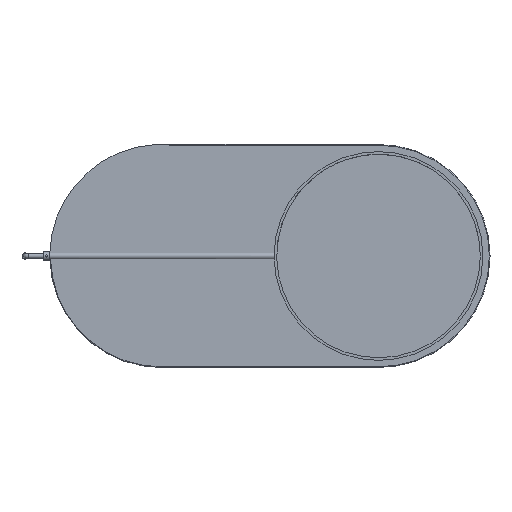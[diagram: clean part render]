
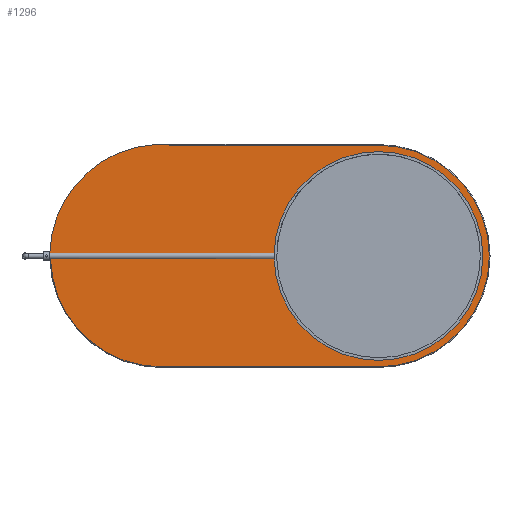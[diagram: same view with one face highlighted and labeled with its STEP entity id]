
A CAD part, top view. The second image highlights one B-rep face of the part: STEP entity #1296.
In plain terms, the highlighted planar face has unit normal (0, 0, 1).
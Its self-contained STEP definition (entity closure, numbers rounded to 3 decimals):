
#411=CARTESIAN_POINT('',(0.0,-342.,5.0));
#412=VERTEX_POINT('',#411);
#420=CARTESIAN_POINT('',(-670.,-342.,5.0));
#421=VERTEX_POINT('',#420);
#422=CARTESIAN_POINT('',(0.0,-342.,5.0));
#423=DIRECTION('',(-1.0,0.0,0.0));
#424=VECTOR('',#423,670.);
#425=LINE('',#422,#424);
#426=EDGE_CURVE('',#412,#421,#425,.T.);
#452=CARTESIAN_POINT('',(0.,342.,5.0));
#453=VERTEX_POINT('',#452);
#461=CARTESIAN_POINT('',(0.0,0.0,5.0));
#462=DIRECTION('',(0.0,0.0,-1.0));
#463=DIRECTION('',(1.0,0.0,0.0));
#464=AXIS2_PLACEMENT_3D('',#461,#462,#463);
#465=CIRCLE('',#464,342.);
#466=EDGE_CURVE('',#453,#412,#465,.T.);
#478=CARTESIAN_POINT('',(-1011.772,-9.233,5.0));
#479=VERTEX_POINT('',#478);
#480=CARTESIAN_POINT('',(-669.895,0.002,5.0));
#481=DIRECTION('',(0.0,0.0,-1.0));
#482=DIRECTION('',(-0.698,-0.716,0.0));
#483=AXIS2_PLACEMENT_3D('',#480,#481,#482);
#484=CIRCLE('',#483,342.002);
#485=EDGE_CURVE('',#421,#479,#484,.T.);
#512=CARTESIAN_POINT('',(-632.825,342.,5.0));
#513=VERTEX_POINT('',#512);
#553=CARTESIAN_POINT('',(-632.825,342.,5.0));
#554=DIRECTION('',(1.0,0.0,0.0));
#555=VECTOR('',#554,632.825);
#556=LINE('',#553,#555);
#557=EDGE_CURVE('',#513,#453,#556,.T.);
#1218=CARTESIAN_POINT('',(-315.865,-9.233,5.0));
#1219=VERTEX_POINT('',#1218);
#1220=CARTESIAN_POINT('',(-315.865,-9.233,5.0));
#1221=DIRECTION('',(-1.0,0.0,0.0));
#1222=VECTOR('',#1221,695.907);
#1223=LINE('',#1220,#1222);
#1224=EDGE_CURVE('',#1219,#479,#1223,.T.);
#1226=CARTESIAN_POINT('',(-315.865,9.233,5.0));
#1227=VERTEX_POINT('',#1226);
#1245=CARTESIAN_POINT('',(-1013.773,9.233,5.0));
#1246=VERTEX_POINT('',#1245);
#1247=CARTESIAN_POINT('',(-1013.773,9.233,5.0));
#1248=DIRECTION('',(1.0,0.0,0.0));
#1249=VECTOR('',#1248,697.908);
#1250=LINE('',#1247,#1249);
#1251=EDGE_CURVE('',#1246,#1227,#1250,.T.);
#1269=CARTESIAN_POINT('',(-334.928,-0.015,5.0));
#1270=DIRECTION('',(0.0,0.0,1.0));
#1271=DIRECTION('',(1.0,0.0,0.0));
#1272=AXIS2_PLACEMENT_3D('',#1269,#1270,#1271);
#1273=PLANE('',#1272);
#1274=CARTESIAN_POINT('',(-669.895,0.002,5.0));
#1275=DIRECTION('',(0.0,0.0,-1.0));
#1276=DIRECTION('',(-0.004,-1.,0.0));
#1277=AXIS2_PLACEMENT_3D('',#1274,#1275,#1276);
#1278=CIRCLE('',#1277,344.002);
#1279=EDGE_CURVE('',#1246,#513,#1278,.T.);
#1280=ORIENTED_EDGE('',*,*,#1279,.F.);
#1281=ORIENTED_EDGE('',*,*,#1251,.T.);
#1282=CARTESIAN_POINT('',(0.0,0.0,5.0));
#1283=DIRECTION('',(0.0,0.0,1.0));
#1284=DIRECTION('',(-1.0,0.0,0.0));
#1285=AXIS2_PLACEMENT_3D('',#1282,#1283,#1284);
#1286=CIRCLE('',#1285,316.0);
#1287=EDGE_CURVE('',#1219,#1227,#1286,.T.);
#1288=ORIENTED_EDGE('',*,*,#1287,.F.);
#1289=ORIENTED_EDGE('',*,*,#1224,.T.);
#1290=ORIENTED_EDGE('',*,*,#485,.F.);
#1291=ORIENTED_EDGE('',*,*,#426,.F.);
#1292=ORIENTED_EDGE('',*,*,#466,.F.);
#1293=ORIENTED_EDGE('',*,*,#557,.F.);
#1294=EDGE_LOOP('',(#1280,#1281,#1288,#1289,#1290,#1291,#1292,#1293));
#1295=FACE_OUTER_BOUND('',#1294,.T.);
#1296=ADVANCED_FACE('',(#1295),#1273,.T.);
